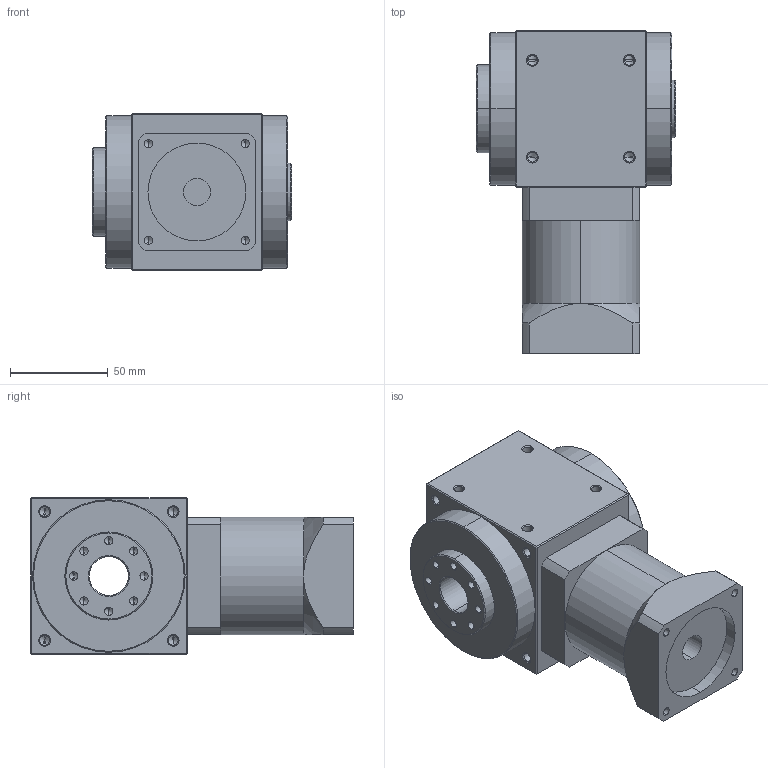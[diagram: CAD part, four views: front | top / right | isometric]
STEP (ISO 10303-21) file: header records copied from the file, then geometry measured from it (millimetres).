
FILE_DESCRIPTION (( 'STEP AP214' ), '1' );
FILE_NAME ('RXW080AS-L1-RF-400W.STEP', '2019-09-19T06:18:54', ( 'User' ), ( 'Far123' ), 'SwSTEP 2.0', 'SolidWorks 2015', '' );
FILE_SCHEMA (( 'AUTOMOTIVE_DESIGN' ));
Length unit declared in the file: millimetre
Products named in the file (1): RXW080AS-L1-RF-400W
Bounding box: 102 x 165 x 80 mm (x, y, z)
Volume: 778752.2 mm3; surface area: 74365.8 mm2
Topology: 1 solids, 1 shells, 261 faces, 596 edges, 320 vertices
Faces by surface type: cone 128, cylinder 88, plane 45
Entity records: 7556 total; most frequent: CARTESIAN_POINT 1362, DIRECTION 1296, ORIENTED_EDGE 1096, EDGE_CURVE 548, AXIS2_PLACEMENT_3D 510, VERTEX_POINT 320, EDGE_LOOP 302, LINE 276
